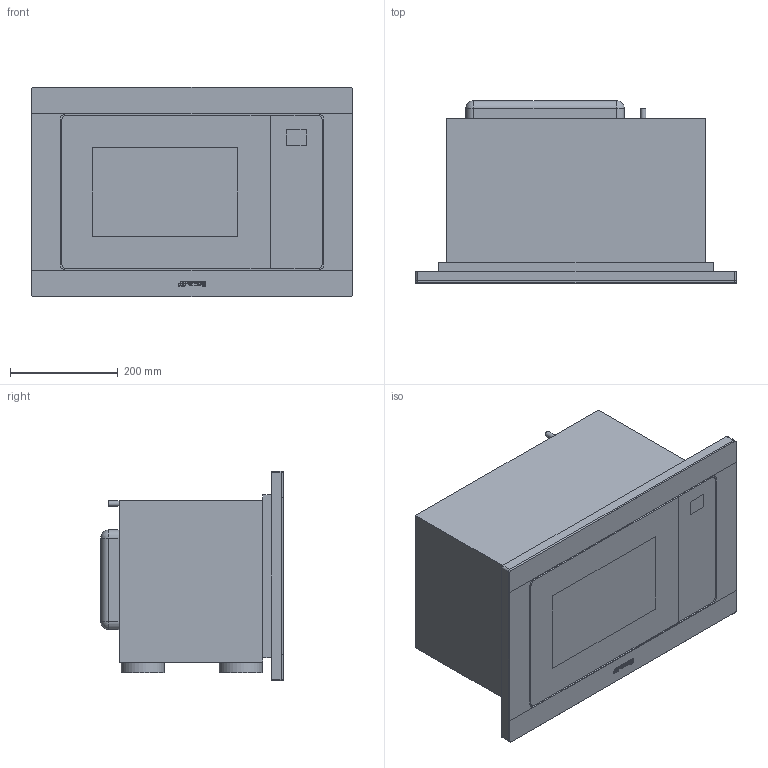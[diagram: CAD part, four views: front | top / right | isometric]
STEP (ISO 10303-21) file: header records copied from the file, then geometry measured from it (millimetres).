
FILE_DESCRIPTION(/* description */ (''),/* implementation_level */ '2;1');
FILE_NAME(/* name */ 'FMI320X2.stp',/* time_stamp */ '2021-01-18T15:47:11+01:00',/* author */ (''),/* organization */ (''),/* preprocessor_version */ 'ST-DEVELOPER v16',/* originating_system */ 'SIEMENS PLM Software NX 11.0',/* authorisation */ '');
FILE_SCHEMA (('AUTOMOTIVE_DESIGN { 1 0 10303 214 3 1 1 1 }'));
Length unit declared in the file: millimetre
Products named in the file (1): Mart1280355E4vct
Bounding box: 595 x 339.2 x 390 mm (x, y, z)
Volume: 48553515.6 mm3; surface area: 2000216.7 mm2
Topology: 19 solids, 19 shells, 188 faces, 422 edges, 274 vertices
Faces by surface type: plane 120, cylinder 53, extrusion 11, sphere 4
Full cylindrical faces by diameter (mm): 4.608 x6, 10 x1, 80 x4
Entity records: 5508 total; most frequent: CARTESIAN_POINT 1172, DIRECTION 856, ORIENTED_EDGE 812, EDGE_CURVE 406, VECTOR 288, AXIS2_PLACEMENT_3D 284, LINE 277, VERTEX_POINT 274
